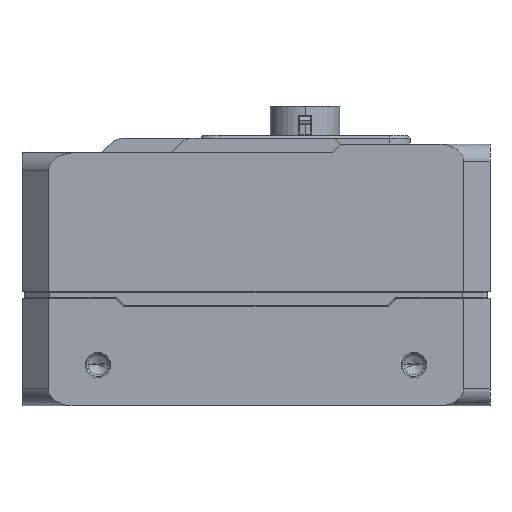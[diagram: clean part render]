
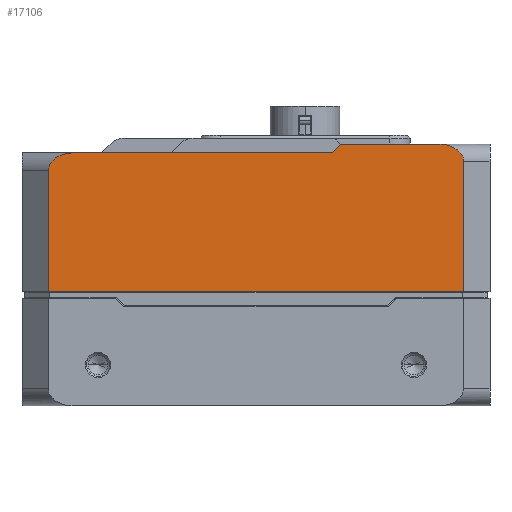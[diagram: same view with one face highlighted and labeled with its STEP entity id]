
A CAD part, front view. The second image highlights one B-rep face of the part: STEP entity #17106.
In plain terms, the highlighted planar face has unit normal (0, -1, 0) as drawn and (0, 1, 0) by its records, which use the part's own axes.
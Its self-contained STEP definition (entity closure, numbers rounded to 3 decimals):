
#10949=CARTESIAN_POINT('',(12.586,40.,-11.885));
#10950=DIRECTION('',(0.,-1.,0.));
#10951=DIRECTION('',(0.707,0.,0.707));
#10952=AXIS2_PLACEMENT_3D('',#10949,#10950,#10951);
#11790=DIRECTION('',(-0.707,0.,0.707));
#11791=VECTOR('',#11790,1.707);
#11792=CARTESIAN_POINT('',(14.5,40.,-12.385));
#11793=LINE('',#11792,#11791);
#11794=DIRECTION('',(1.,0.,0.));
#11795=VECTOR('',#11794,43.843);
#11796=CARTESIAN_POINT('',(-31.257,40.,-10.885));
#11797=LINE('',#11796,#11795);
#11798=DIRECTION('',(-1.,0.,0.));
#11799=VECTOR('',#11798,16.757);
#11800=CARTESIAN_POINT('',(31.257,40.,-12.385));
#11801=LINE('',#11800,#11799);
#11802=CARTESIAN_POINT('',(35.5,40.,-9.385));
#11803=CARTESIAN_POINT('',(35.5,40.,-9.687));
#11804=CARTESIAN_POINT('',(35.385,40.,-10.175));
#11805=CARTESIAN_POINT('',(34.952,40.,-10.95));
#11806=CARTESIAN_POINT('',(34.152,40.,-11.658));
#11807=CARTESIAN_POINT('',(32.9,40.,-12.217));
#11808=CARTESIAN_POINT('',(31.861,40.,-12.385));
#11809=CARTESIAN_POINT('',(31.257,40.,-12.385));
#11811=DIRECTION('',(0.,0.,-1.));
#11812=VECTOR('',#11811,22.27);
#11813=CARTESIAN_POINT('',(35.5,40.,12.885));
#11814=LINE('',#11813,#11812);
#11815=DIRECTION('',(-1.,0.,0.));
#11816=VECTOR('',#11815,71.);
#11817=CARTESIAN_POINT('',(35.5,40.,12.885));
#11818=LINE('',#11817,#11816);
#11819=DIRECTION('',(0.,0.,-1.));
#11820=VECTOR('',#11819,20.77);
#11821=CARTESIAN_POINT('',(-35.5,40.,12.885));
#11822=LINE('',#11821,#11820);
#11823=CARTESIAN_POINT('',(-31.257,40.,-10.885));
#11824=CARTESIAN_POINT('',(-31.861,40.,-10.885));
#11825=CARTESIAN_POINT('',(-32.9,40.,-10.717));
#11826=CARTESIAN_POINT('',(-34.152,40.,-10.158));
#11827=CARTESIAN_POINT('',(-34.952,40.,-9.45));
#11828=CARTESIAN_POINT('',(-35.385,40.,-8.675));
#11829=CARTESIAN_POINT('',(-35.5,40.,-8.187));
#11830=CARTESIAN_POINT('',(-35.5,40.,-7.885));
#13733=CARTESIAN_POINT('',(35.5,40.,12.885));
#13734=CARTESIAN_POINT('',(-35.5,40.,12.885));
#13735=VERTEX_POINT('',#13733);
#13736=VERTEX_POINT('',#13734);
#14209=CARTESIAN_POINT('',(-31.257,40.,-10.885));
#14210=VERTEX_POINT('',#14209);
#14211=VERTEX_POINT('',#11830);
#14212=VERTEX_POINT('',#11802);
#14213=VERTEX_POINT('',#11809);
#14339=CARTESIAN_POINT('',(14.5,40.,-12.385));
#14340=VERTEX_POINT('',#14339);
#14358=CARTESIAN_POINT('',(12.586,40.,-10.885));
#14360=VERTEX_POINT('',#14358);
#14363=CARTESIAN_POINT('',(13.293,40.,-11.178));
#14364=VERTEX_POINT('',#14363);
#17085=CARTESIAN_POINT('',(40.,40.,-13.885));
#17086=DIRECTION('',(0.,1.,0.));
#17087=DIRECTION('',(-1.,0.,0.));
#17088=AXIS2_PLACEMENT_3D('',#17085,#17086,#17087);
#17089=PLANE('',#17088);
#17090=ORIENTED_EDGE('',*,*,#15335,.T.);
#17091=ORIENTED_EDGE('',*,*,#15716,.F.);
#17092=ORIENTED_EDGE('',*,*,#17080,.F.);
#17093=ORIENTED_EDGE('',*,*,#15202,.F.);
#17095=ORIENTED_EDGE('',*,*,#17094,.F.);
#17097=ORIENTED_EDGE('',*,*,#17096,.F.);
#17099=ORIENTED_EDGE('',*,*,#17098,.T.);
#17101=ORIENTED_EDGE('',*,*,#17100,.T.);
#17103=ORIENTED_EDGE('',*,*,#17102,.F.);
#17104=EDGE_LOOP('',(#17090,#17091,#17092,#17093,#17095,#17097,#17099,#17101,
#17103));
#17105=FACE_OUTER_BOUND('',#17104,.F.);
#17106=ADVANCED_FACE('',(#17105),#17089,.T.);
#10953=CIRCLE('',#10952,1.);
#11810=B_SPLINE_CURVE_WITH_KNOTS('',3,(#11802,#11803,#11804,#11805,#11806,
#11807,#11808,#11809),.UNSPECIFIED.,.F.,.F.,(4,1,1,1,1,4),(0.,0.125,0.25,
0.5,0.75,1.),.UNSPECIFIED.);
#11831=B_SPLINE_CURVE_WITH_KNOTS('',3,(#11823,#11824,#11825,#11826,#11827,
#11828,#11829,#11830),.UNSPECIFIED.,.F.,.F.,(4,1,1,1,1,4),(0.,0.25,0.5,
0.75,0.875,1.),.UNSPECIFIED.);
#15202=EDGE_CURVE('',#14213,#14340,#11801,.T.);
#15335=EDGE_CURVE('',#14210,#14360,#11797,.T.);
#15716=EDGE_CURVE('',#14364,#14360,#10953,.T.);
#17080=EDGE_CURVE('',#14340,#14364,#11793,.T.);
#17094=EDGE_CURVE('',#14212,#14213,#11810,.T.);
#17096=EDGE_CURVE('',#13735,#14212,#11814,.T.);
#17098=EDGE_CURVE('',#13735,#13736,#11818,.T.);
#17100=EDGE_CURVE('',#13736,#14211,#11822,.T.);
#17102=EDGE_CURVE('',#14210,#14211,#11831,.T.);
